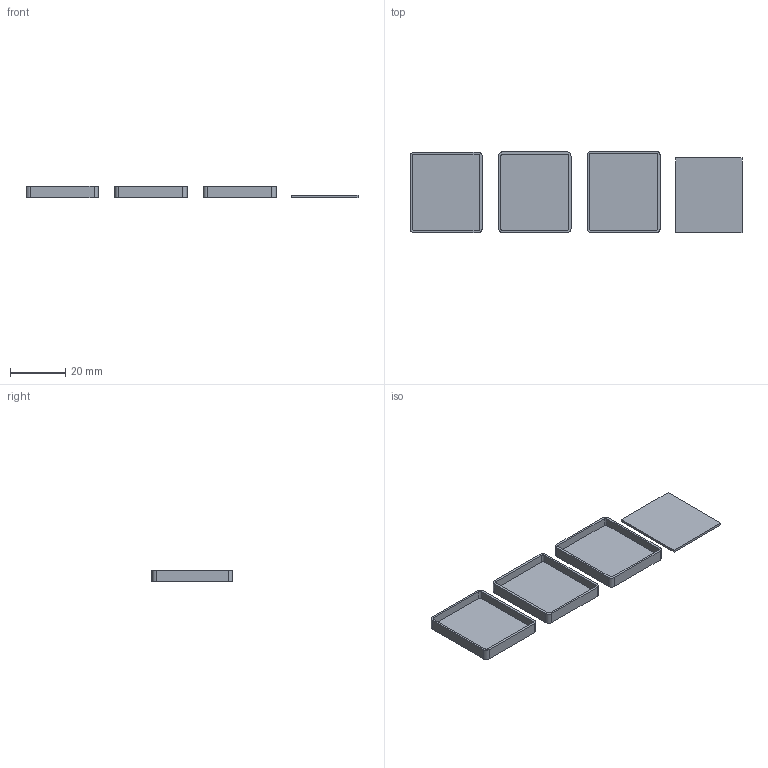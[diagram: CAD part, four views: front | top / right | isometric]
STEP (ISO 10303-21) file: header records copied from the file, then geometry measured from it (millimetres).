
FILE_DESCRIPTION(('Open CASCADE Model'),'2;1');
FILE_NAME('Open CASCADE Shape Model','2026-10-27T13:08:00',('Author'),( 'Open CASCADE'),'Open CASCADE STEP processor 7.9','Open CASCADE 7.9' ,'Unknown');
FILE_SCHEMA(('AUTOMOTIVE_DESIGN { 1 0 10303 214 1 1 1 1 }'));
Length unit declared in the file: millimetre
Products named in the file (5): home_fit_coupons; tray-gap-25; tray-gap-30; tray-gap-40; pcb_size_dummy
Assembly tree (4 placements, depth 2):
  home_fit_coupons
    tray-gap-25
    tray-gap-30
    tray-gap-40
    pcb_size_dummy
Bounding box: 120 x 29.4 x 4 mm (x, y, z)
Volume: 3592.5 mm3; surface area: 8200.4 mm2
Topology: 4 solids, 4 shells, 63 faces, 156 edges, 104 vertices
Faces by surface type: plane 39, cylinder 24
Entity records: 4012 total; most frequent: CARTESIAN_POINT 772, DIRECTION 610, LINE 348, VECTOR 348, ORIENTED_EDGE 312, PCURVE 312, DEFINITIONAL_REPRESENTATION 312, EDGE_CURVE 156
